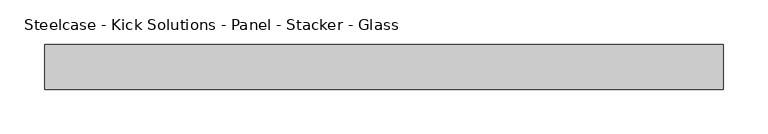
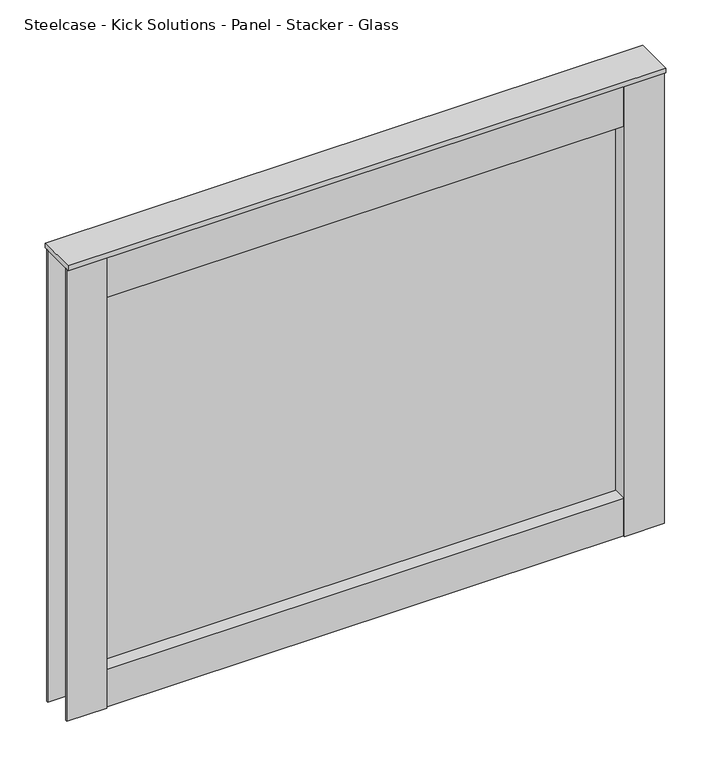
"""IFC4 building model written with IfcOpenShell, lengths in millimetres: furniture geometry, Steelcase - Kick Solutions - Panel - Stacker - Glass : 24H x 30W."""

from ifc_helpers import new_model, si_unit, frame, origin, place, context, project, spatial, polyline, outline, extrude, source, transform, mapped, element, save


def steelcase_kick_solutions_panel_stacker_glass_f8305b18(model_context):
    return source(origin(), model_context, "Body", "SweptSolid", [
        extrude(outline(polyline([(711.2006661, -5.08), (711.2006661, -45.7200015), (50.8006646, -45.7200015), (50.8006646, -5.08), (711.2006661, -5.08)])), frame((0.0, 0.0, 1066.8), z_axis=(0.0, 0.0, 1.0), x_axis=(1.0, 0.0, 0.0)), (0.0, 0.0, 1.0), 50.6830951),
        extrude(outline(polyline([(711.2006661, -5.08), (711.2006661, -45.7200015), (50.8006646, -45.7200015), (50.8006646, -5.08), (711.2006661, -5.08)])), frame((0.0, 0.0, 1619.25), z_axis=(0.0, 0.0, 1.0), x_axis=(1.0, 0.0, 0.0)), (0.0, 0.0, 1.0), 57.15),
        extrude(outline(polyline([(50.8006646, -3.1743148), (50.8006646, -47.6243142), (0.0, -47.6243142), (0.0, -45.7200015), (47.7526646, -45.7200015), (47.7526646, -5.08), (0.0, -5.08), (0.0, -3.1743148), (50.8006646, -3.1743148)])), frame((0.0, 0.0, 1066.8), z_axis=(0.0, 0.0, 1.0), x_axis=(1.0, 0.0, 0.0)), (0.0, 0.0, 1.0), 609.6),
        extrude(outline(polyline([(711.2006661, -3.1743148), (762.0, -3.1743148), (762.0, -5.08), (714.2486661, -5.08), (714.2486661, -45.7200015), (762.0, -45.7200015), (762.0, -47.6243142), (711.2006661, -47.6243142), (711.2006661, -3.1743148)])), frame((0.0, 0.0, 1066.8), z_axis=(0.0, 0.0, 1.0), x_axis=(1.0, 0.0, 0.0)), (0.0, 0.0, 1.0), 609.6),
        extrude(outline(polyline([(711.2006661, -28.422537), (50.8006646, -28.422537), (50.8006646, -25.4), (711.2006661, -25.4), (711.2006661, -28.422537)])), frame((0.0, 0.0, 1117.4830951), z_axis=(0.0, 0.0, 1.0), x_axis=(1.0, 0.0, 0.0)), (0.0, 0.0, 1.0), 501.7669049),
        extrude(outline(polyline([(762.0, 0.0), (762.0, -50.8000015), (0.0, -50.8000015), (0.0, 0.0), (762.0, 0.0)])), frame((0.0, 0.0, 1676.4), z_axis=(0.0, 0.0, 1.0), x_axis=(1.0, 0.0, 0.0)), (0.0, 0.0, 1.0), 6.35),
    ])


if __name__ == "__main__":
    model = new_model("IFC4")
    model_context = context("Model", 3, world=origin())
    ifc_project = project(units=[si_unit("LENGTHUNIT", "METRE", prefix="MILLI")], contexts=[model_context])
    site = spatial("IfcSite", under=ifc_project)
    building = spatial("IfcBuilding", under=site)
    placement = place(None, origin())
    steelcase_kick_solutions_panel_stacker_glass_shape = steelcase_kick_solutions_panel_stacker_glass_f8305b18(model_context)
    element("IfcFurniture", 1, ObjectType="Steelcase - Kick Solutions - Panel - Stacker - Glass : 24H x 30W", at=placement, inside=building, context=model_context, shape_type="MappedRepresentation", body=[
        mapped(steelcase_kick_solutions_panel_stacker_glass_shape, transform((0.0, 0.0, 0.0), x_axis=(1.0, 0.0, 0.0), y_axis=(0.0, 1.0, 0.0), z_axis=(0.0, 0.0, 1.0))),
    ])
    save(model, "model.ifc")
